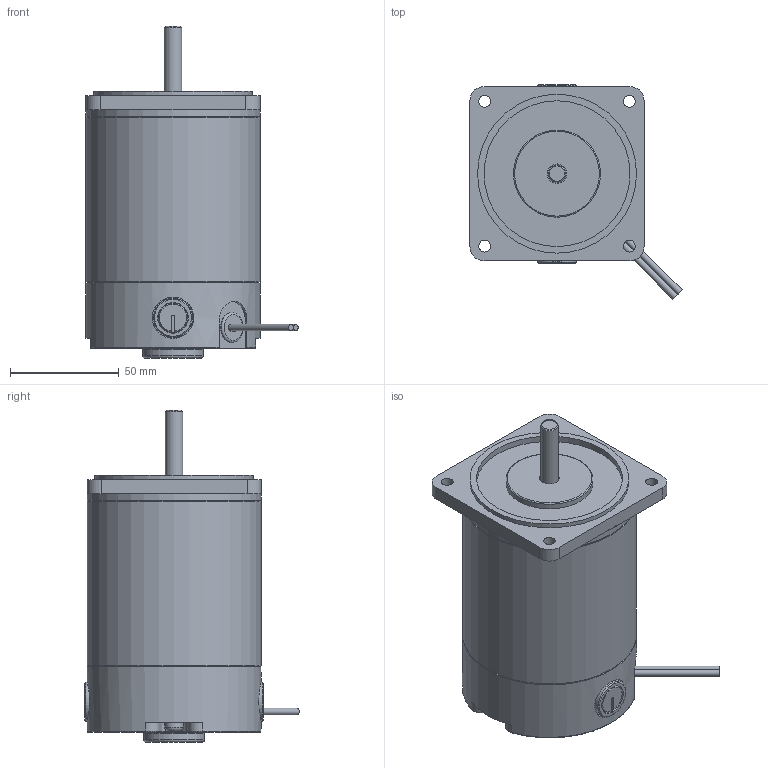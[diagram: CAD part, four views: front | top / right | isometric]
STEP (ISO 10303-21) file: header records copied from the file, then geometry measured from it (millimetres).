
FILE_DESCRIPTION((''),'2;1');
FILE_NAME('C:\Documents and Settings\ycw1227\바탕 화면\S8D25-ㅁS.stp','2013-06-04T08:10:36',('ycw1227'),(''),'Autodesk Inventor 2011','Autodesk Inventor 2011','');
FILE_SCHEMA(('AUTOMOTIVE_DESIGN { 1 0 10303 214 1 1 1 1 }'));
Length unit declared in the file: millimetre
Products named in the file (1): 부품9
Bounding box: 97.45 x 98.45 x 152.5 mm (x, y, z)
Volume: 594536 mm3; surface area: 51527.6 mm2
Topology: 1 solids, 3 shells, 174 faces, 411 edges, 266 vertices
Faces by surface type: plane 98, cylinder 46, cone 15, torus 15
Full cylindrical faces by diameter (mm): 3 x2, 5 x2, 5.5 x4, 8 x1, 8.5 x2, 9 x2, 13.5 x2, 14 x3, 18 x2, 19 x2, 28 x1, 40 x1, 67 x1, 73 x1, 80 x3
Entity records: 5064 total; most frequent: CARTESIAN_POINT 1013, DIRECTION 825, ORIENTED_EDGE 736, EDGE_CURVE 368, AXIS2_PLACEMENT_3D 325, VERTEX_POINT 261, EDGE_LOOP 244, VECTOR 175
